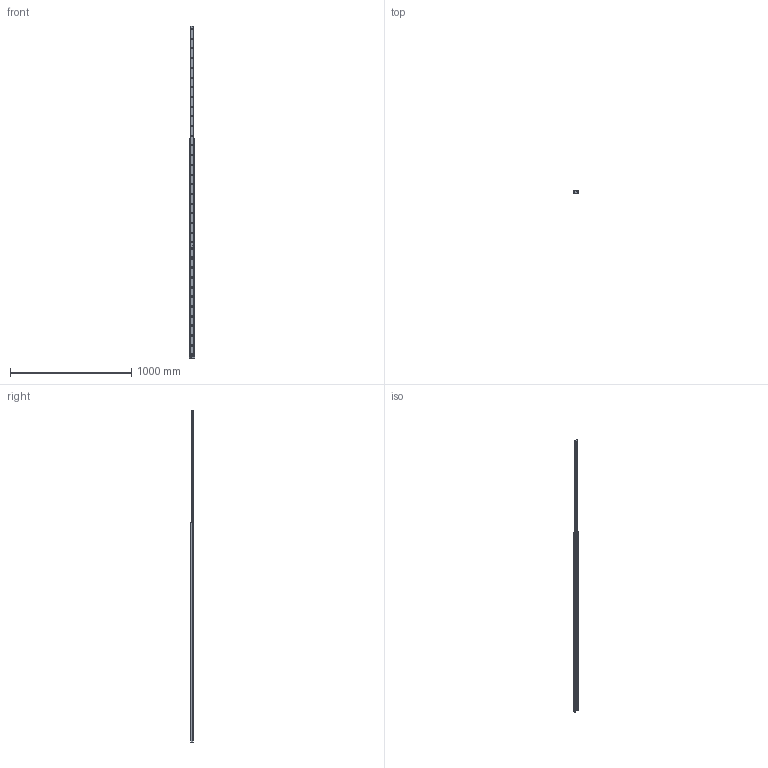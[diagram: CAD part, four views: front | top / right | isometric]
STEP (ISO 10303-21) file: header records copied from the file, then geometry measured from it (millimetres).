
FILE_DESCRIPTION(('STEP AP214'),'1');
FILE_NAME('rail_asn43-1810_01.stp','2017-06-06T10:16:34',('TraceParts'),('TraceParts S.A.'),'Spatial InterOp 3D',' ',' ');
FILE_SCHEMA(('automotive_design'));
Length unit declared in the file: millimetre
Products named in the file (2): rail_asn43-1810_01_1; rail_asn43-1810_01_2
Bounding box: 43 x 22.01 x 2738 mm (x, y, z)
Volume: 1101619.6 mm3; surface area: 425622 mm2
Topology: 2 solids, 2 shells, 307 faces, 756 edges, 458 vertices
Faces by surface type: cone 138, cylinder 123, plane 46
Entity records: 9284 total; most frequent: DIRECTION 1758, CARTESIAN_POINT 1523, ORIENTED_EDGE 1512, EDGE_CURVE 756, AXIS2_PLACEMENT_3D 693, VERTEX_POINT 458, EDGE_LOOP 404, CIRCLE 384
